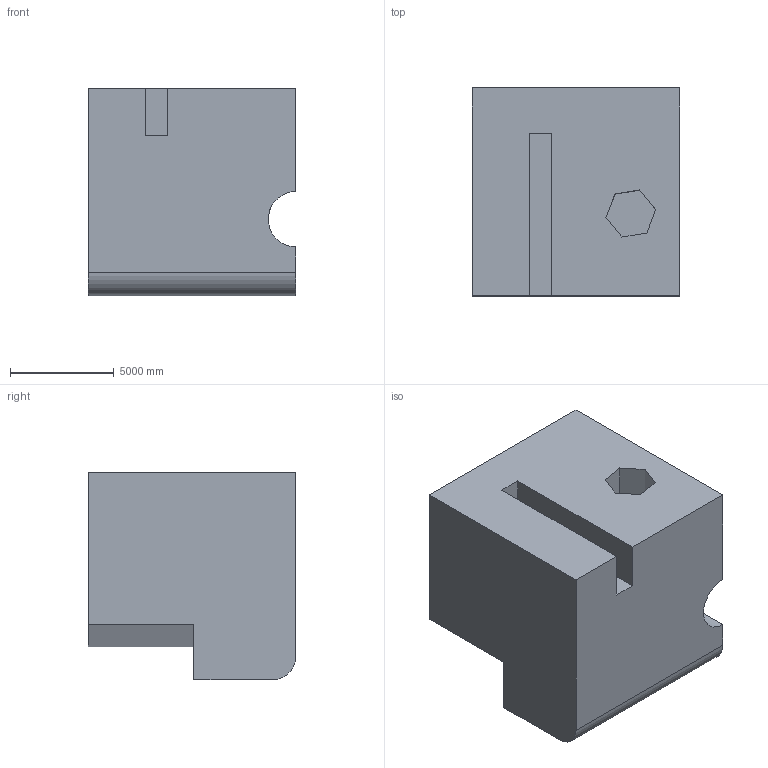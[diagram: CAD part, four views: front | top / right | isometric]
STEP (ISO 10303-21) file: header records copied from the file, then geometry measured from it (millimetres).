
FILE_DESCRIPTION (( 'STEP AP203' ), '1' );
FILE_NAME ('533.STEP', '2022-07-29T11:41:33', ( 'user' ), ( '' ), 'SwSTEP 2.0', 'SolidWorks 2021', '' );
FILE_SCHEMA (( 'CONFIG_CONTROL_DESIGN' ));
Length unit declared in the file: centimetre
Products named in the file (1): 533
Bounding box: 10000 x 10000 x 10000 mm (x, y, z)
Volume: 806125765849.1 mm3; surface area: 684001890.2 mm2
Topology: 1 solids, 1 shells, 29 faces, 78 edges, 52 vertices
Faces by surface type: plane 27, cylinder 2
Entity records: 977 total; most frequent: CARTESIAN_POINT 166, ORIENTED_EDGE 156, DIRECTION 140, EDGE_CURVE 78, VECTOR 72, LINE 72, VERTEX_POINT 52, AXIS2_PLACEMENT_3D 34
